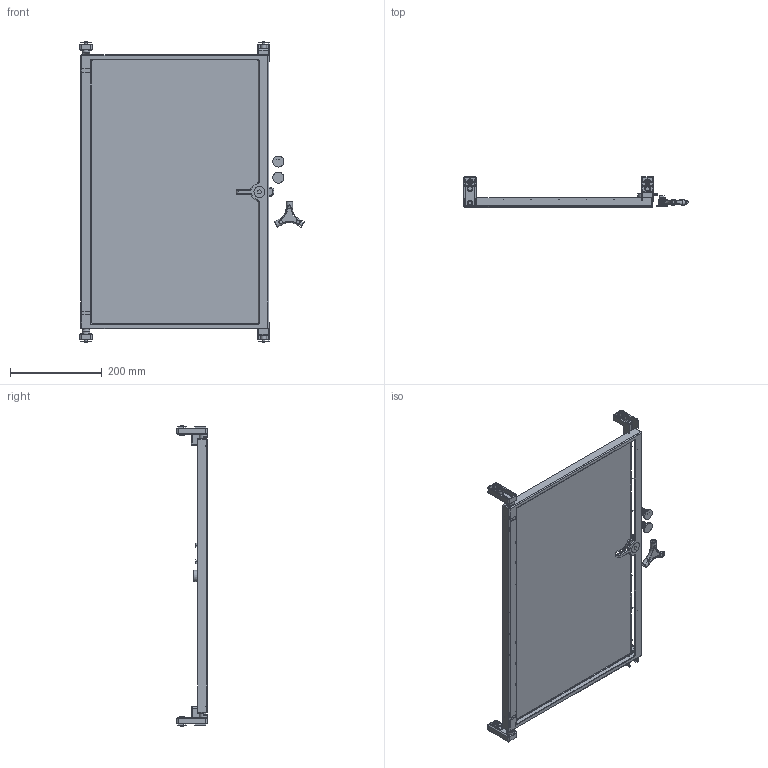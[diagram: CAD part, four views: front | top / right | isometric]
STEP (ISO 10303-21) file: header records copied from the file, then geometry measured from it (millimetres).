
FILE_DESCRIPTION(/* description */ (''),/* implementation_level */ '2;1');
FILE_NAME(/* name */ '4005040.stp',/* time_stamp */ '2016-09-26T10:35:52+02:00',/* author */ (''),/* organization */ (''),/* preprocessor_version */ 'ST-DEVELOPER v16',/* originating_system */ 'SIEMENS PLM Software NX 11.0',/* authorisation */ '');
FILE_SCHEMA (('AUTOMOTIVE_DESIGN { 1 0 10303 214 3 1 1 1 }'));
Length unit declared in the file: millimetre
Products named in the file (1): 4005040_LINKEDEXT_jt
Bounding box: 487.76 x 66 x 656.5 mm (x, y, z)
Surface area: 560695.4 mm2 (no closed solid volume)
Topology: 0 solids, 126 shells, 470 faces, 1970 edges, 1588 vertices
Faces by surface type: plane 197, cylinder 145, torus 42, bspline 36, cone 26, sphere 24
Full cylindrical faces by diameter (mm): 5 x4, 6 x1, 9.3 x3, 9.9 x2, 12 x2, 13.7 x2, 14 x3, 17 x2, 17.9 x2, 24 x2
Entity records: 25287 total; most frequent: CARTESIAN_POINT 6211, DIRECTION 3284, ORIENTED_EDGE 2400, EDGE_CURVE 1887, VERTEX_POINT 1567, AXIS2_PLACEMENT_3D 1112, LINE 1060, VECTOR 1060
